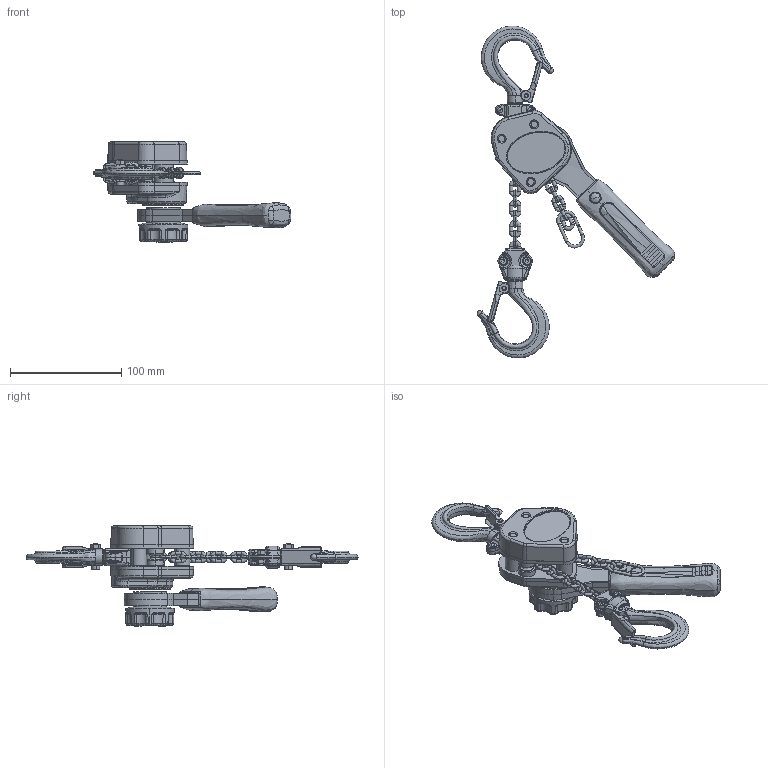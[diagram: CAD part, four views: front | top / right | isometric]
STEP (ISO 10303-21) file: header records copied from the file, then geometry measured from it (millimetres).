
FILE_DESCRIPTION (( 'STEP AP214' ), '1' );
FILE_NAME ('LX003.STEP', '2026-08-13T17:20:16', ( '' ), ( '' ), 'SwSTEP 2.0', 'SolidWorks 2026', '' );
FILE_SCHEMA (( 'AUTOMOTIVE_DESIGN' ));
Length unit declared in the file: metre
Products named in the file (1): LX003
Bounding box: 177.62 x 298.4 x 90.1 mm (x, y, z)
Surface area: 82201.8 mm2 (no closed solid volume)
Topology: 0 solids, 49 shells, 1262 faces, 3351 edges, 2051 vertices
Faces by surface type: bspline 1262
Entity records: 90338 total; most frequent: CARTESIAN_POINT 68558, ORIENTED_EDGE 6114, EDGE_CURVE 3259, B_SPLINE_CURVE_WITH_KNOTS 2255, VERTEX_POINT 2051, EDGE_LOOP 1371, FACE_OUTER_BOUND 1262, ADVANCED_FACE 1262
